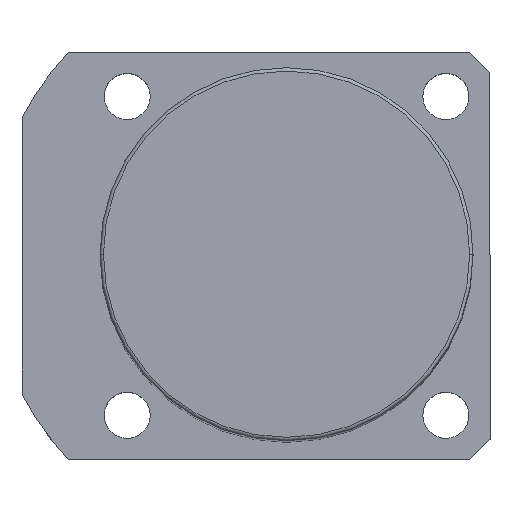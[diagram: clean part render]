
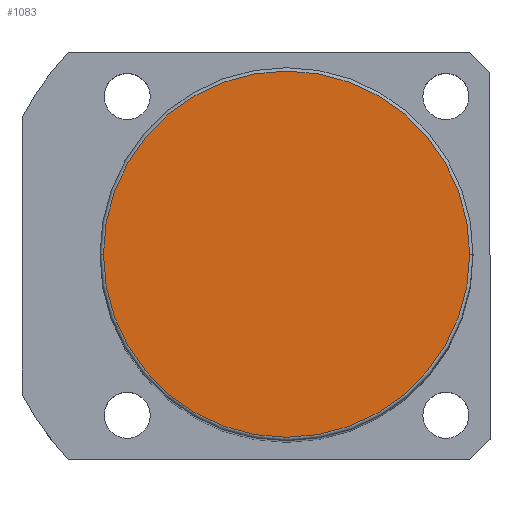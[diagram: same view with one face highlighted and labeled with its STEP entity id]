
A CAD part, top view. The second image highlights one B-rep face of the part: STEP entity #1083.
In plain terms, the highlighted planar face has unit normal (0, 0, 1).
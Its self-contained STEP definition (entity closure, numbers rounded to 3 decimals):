
#74 = DIRECTION ( 'NONE',  ( 1., 0., 0. ) ) ;
#133 = PLANE ( 'NONE',  #1488 ) ;
#213 = CARTESIAN_POINT ( 'NONE',  ( 0., 0., 151. ) ) ;
#219 = CARTESIAN_POINT ( 'NONE',  ( -27., 0., 151. ) ) ;
#305 = EDGE_CURVE ( 'NONE', #1834, #1664, #810, .T. ) ;
#401 = DIRECTION ( 'NONE',  ( 0., 0., 1. ) ) ;
#569 = DIRECTION ( 'NONE',  ( 1., 0., 0. ) ) ;
#617 = AXIS2_PLACEMENT_3D ( 'NONE', #1780, #401, #569 ) ;
#693 = CIRCLE ( 'NONE', #617, 27. ) ;
#810 = CIRCLE ( 'NONE', #1953, 27. ) ;
#835 = ORIENTED_EDGE ( 'NONE', *, *, #981, .T. ) ;
#906 = DIRECTION ( 'NONE',  ( 1., 0., 0. ) ) ;
#981 = EDGE_CURVE ( 'NONE', #1664, #1834, #693, .T. ) ;
#1083 = ADVANCED_FACE ( 'NONE', ( #1207 ), #133, .T. ) ;
#1168 = ORIENTED_EDGE ( 'NONE', *, *, #305, .T. ) ;
#1198 = CARTESIAN_POINT ( 'NONE',  ( 0., 0., 151. ) ) ;
#1207 = FACE_OUTER_BOUND ( 'NONE', #1913, .T. ) ;
#1284 = DIRECTION ( 'NONE',  ( 0., 0., 1. ) ) ;
#1488 = AXIS2_PLACEMENT_3D ( 'NONE', #1198, #1665, #906 ) ;
#1664 = VERTEX_POINT ( 'NONE', #219 ) ;
#1665 = DIRECTION ( 'NONE',  ( 0., 0., 1. ) ) ;
#1780 = CARTESIAN_POINT ( 'NONE',  ( 0., 0., 151. ) ) ;
#1800 = CARTESIAN_POINT ( 'NONE',  ( 27., 0., 151. ) ) ;
#1834 = VERTEX_POINT ( 'NONE', #1800 ) ;
#1913 = EDGE_LOOP ( 'NONE', ( #1168, #835 ) ) ;
#1953 = AXIS2_PLACEMENT_3D ( 'NONE', #213, #1284, #74 ) ;
